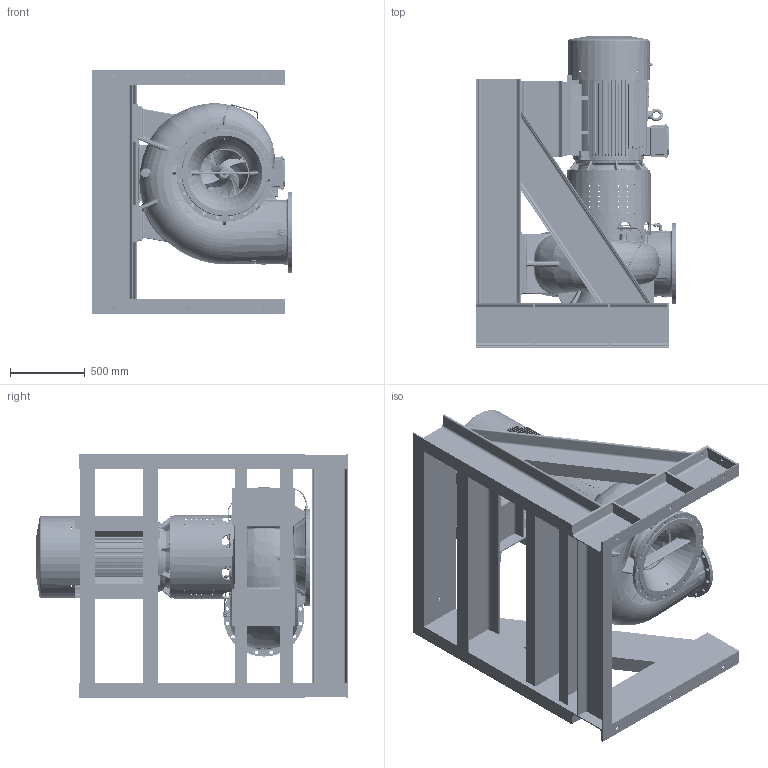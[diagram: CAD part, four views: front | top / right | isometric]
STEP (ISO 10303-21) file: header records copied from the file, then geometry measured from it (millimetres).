
FILE_DESCRIPTION((''),'2;1');
FILE_NAME('NSLV400-390_A02_FO_ASM','2024-05-28T',('maxz'),(''),'PRO/ENGINEER BY PARAMETRIC TECHNOLOGY CORPORATION, 2017170','PRO/ENGINEER BY PARAMETRIC TECHNOLOGY CORPORATION, 2017170','');
FILE_SCHEMA(('CONFIG_CONTROL_DESIGN'));
Products named in the file (53): 118708; 596430; 596710; 596450; 599100; 110198; 117305; 700952; 506841; 107290; 725990_1; 725990_2; 725990_ASM; 707471; 704276; 704371; 704268; 697856_ASM; 107293; 107291; 107294; 107292; 506704; 704020; 717872; 717871; 703336; 710912; 704067; 707566; 700324; 705173; 709603; 700923; 704188; 506953; 704189; 506954; 704390; 712398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
Assembly tree (105 placements, depth 5):
  NSLV400-390_A02_FO_ASM
    118708
    697841_ASM
      596430
      596710
      596450
      599100
      697856_ASM
        110198
        117305
        700952  x2
        506841
        107290
        725990_ASM
          725990_1
          725990_2
        707471
        704276
        704371  x4
        704268
      107293
      107291
      107294
      107292
      506704
      704020
      717872
      717871
      703336  x4
      710912  x6
      704067  x8
      707566  x8
      700324  x8
      705173
      709603
      700923
      704188
      506953
      704189
      506954
      704390  x3
      712398
      718563  x2
      714915  x2
      708438
      708437
    697847_ASM
      599070
      117484_AF0  x2
      720488  x8
      110851
      703207
      700324  x8
    854582
Bounding box: 1335 x 2078.5 x 1630 mm (x, y, z)
Volume: 317978121.3 mm3; surface area: 32891248.8 mm2
Topology: 134 solids, 221 shells, 8306 faces, 21174 edges, 13355 vertices
Faces by surface type: plane 2649, cylinder 1870, bspline 1346, cone 1054, extrusion 701, torus 528, sphere 152, revolution 6
Entity records: 466055 total; most frequent: CARTESIAN_POINT 301445, ORIENTED_EDGE 36660, DIRECTION 29346, EDGE_CURVE 18490, VERTEX_POINT 11794, AXIS2_PLACEMENT_3D 11139, EDGE_LOOP 8046, B_SPLINE_CURVE_WITH_KNOTS 7199
